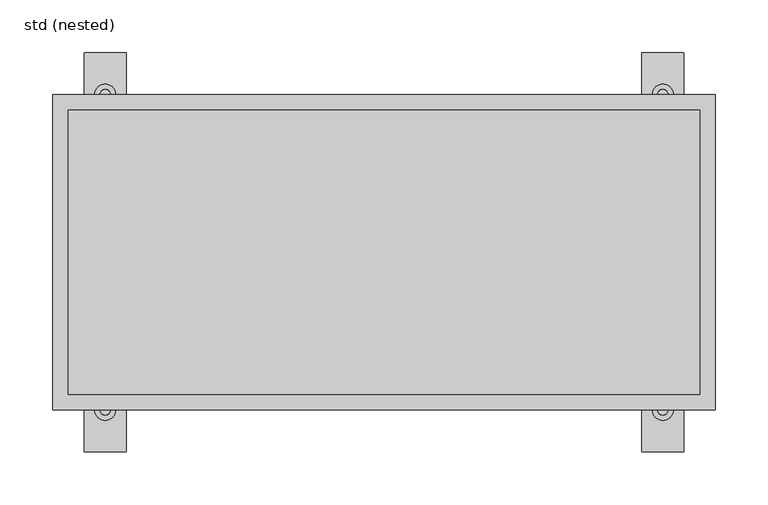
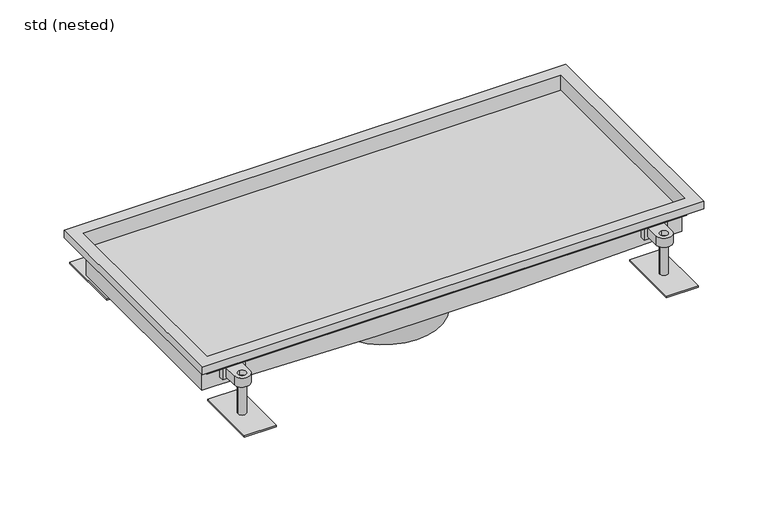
"""IFC4 building model written with IfcOpenShell, lengths in millimetres: sanitary terminal geometry, ZZZ_do not use_PF_ST_UN_hygienic box channel_ACO : std (nested)."""

import ifcopenshell
import ifcopenshell.guid

model = None  # the IFC model being written
_history = None  # IfcOwnerHistory: only IFC2X3 demands one
_inside = {}  # id of a spatial element -> (the spatial element, [elements in it])
_under = {}  # id of a project, library or spatial element -> (it, [spatial elements below it])
_declared = {}  # id of a project -> (the project, [libraries it declares])
_typed = {}  # id of a type object -> (the type object, [elements of that type])
_made_of = {}  # id of a material, layer set ... -> (it, [elements and type objects made of it])


def new_model(schema):
    """Start an empty IFC model of exactly this schema.

    Asked for "IFC4X3", IfcOpenShell would pick the latest addendum, in which some entities
    have other attributes; the version numbers below select the first issue.
    IFC2X3 requires an IfcOwnerHistory on every rooted entity: one is made here for all.
    """
    global model, _history
    if schema == "IFC4X3":
        model = ifcopenshell.file(schema_version=(4, 3, 0, 0))
    else:
        model = ifcopenshell.file(schema=schema)
    _inside.clear()
    _under.clear()
    _declared.clear()
    _typed.clear()
    _made_of.clear()
    _history = None
    if model.schema == "IFC2X3":
        org = make("IfcOrganization", Name="unknown")
        user = make(
            "IfcPersonAndOrganization",
            ThePerson=make("IfcPerson", FamilyName="unknown"),
            TheOrganization=org,
        )
        app = make(
            "IfcApplication",
            ApplicationDeveloper=org,
            Version="unknown",
            ApplicationFullName="unknown",
            ApplicationIdentifier="unknown",
        )
        _history = make(
            "IfcOwnerHistory",
            OwningUser=user,
            OwningApplication=app,
            ChangeAction="ADDED",
            CreationDate=0,
        )
    return model


def make(cls, **values):
    """One entity of the class cls with the attributes given. An attribute that is None is left unset."""
    return model.create_entity(
        cls, **{name: value for name, value in values.items() if value is not None}
    )


def rooted(cls, **values):
    """An entity with a GlobalId (a new one), such as an element, a storey or a relation."""
    return make(cls, GlobalId=ifcopenshell.guid.new(), OwnerHistory=_history, **values)


def si_unit(unit_type, name, prefix=None):
    """IfcSIUnit, for example si_unit("LENGTHUNIT", "METRE", prefix="MILLI")."""
    return make("IfcSIUnit", UnitType=unit_type, Prefix=prefix, Name=name)


def assignment(units):
    """IfcUnitAssignment: the units of a project."""
    return None if units is None else make("IfcUnitAssignment", Units=units)


def point(xyz):
    """IfcCartesianPoint."""
    return None if xyz is None else make("IfcCartesianPoint", Coordinates=xyz)


def direction(xyz):
    """IfcDirection."""
    return None if xyz is None else make("IfcDirection", DirectionRatios=xyz)


def frame(location, z_axis=None, x_axis=None):
    """IfcAxis2Placement3D, a coordinate frame: its origin and axes. An axis left out is left unset."""
    return make(
        "IfcAxis2Placement3D",
        Location=point(location),
        Axis=direction(z_axis),
        RefDirection=direction(x_axis),
    )


def frame_2d(location, x_axis=None):
    """IfcAxis2Placement2D, a coordinate frame in the plane: its origin and x axis."""
    return make(
        "IfcAxis2Placement2D", Location=point(location), RefDirection=direction(x_axis)
    )


def origin():
    """The frame at (0, 0, 0) with its axes left unset."""
    return frame((0.0, 0.0, 0.0))


def place(relative_to, where):
    """IfcLocalPlacement: puts the frame where relative to a parent placement (None: the world)."""
    return make(
        "IfcLocalPlacement", PlacementRelTo=relative_to, RelativePlacement=where
    )


def context(
    kind, dimensions, precision=None, world=None, true_north=None, identifier=None
):
    """IfcGeometricRepresentationContext, for example the 3D "Model" context."""
    return make(
        "IfcGeometricRepresentationContext",
        ContextIdentifier=identifier,
        ContextType=kind,
        CoordinateSpaceDimension=dimensions,
        Precision=precision,
        WorldCoordinateSystem=world,
        TrueNorth=true_north,
    )


def project(units=None, contexts=None):
    """IfcProject with its units and contexts."""
    return rooted(
        "IfcProject",
        Name="project",
        RepresentationContexts=contexts,
        UnitsInContext=assignment(units),
    )


def spatial(cls, under=None, at=None, **own):
    """A site, building, storey or space (cls), placed at a placement, below another one or the project."""
    s = rooted(cls, ObjectPlacement=at, **own)
    if under is not None:
        _under.setdefault(under.id(), (under, []))[1].append(s)
    return s


def polyline(points):
    """IfcPolyline through the points."""
    return make("IfcPolyline", Points=[point(p) for p in points])


def circle_curve(where, radius):
    """IfcCircle in the frame where."""
    return make("IfcCircle", Position=where, Radius=radius)


def trimmed(basis, trim1, trim2, sense, master):
    """IfcTrimmedCurve: the piece of a basis curve between two trims."""
    return make(
        "IfcTrimmedCurve",
        BasisCurve=basis,
        Trim1=trim1,
        Trim2=trim2,
        SenseAgreement=sense,
        MasterRepresentation=master,
    )


def segment(curve, same_sense, transition):
    """IfcCompositeCurveSegment."""
    return make(
        "IfcCompositeCurveSegment",
        Transition=transition,
        SameSense=same_sense,
        ParentCurve=curve,
    )


def composite_curve(segments, self_intersect=None):
    """IfcCompositeCurve: segments joined end to end."""
    return make("IfcCompositeCurve", Segments=segments, SelfIntersect=self_intersect)


def outline(outer, holes=None, kind="AREA"):
    """IfcArbitraryClosedProfileDef: a profile drawn as a closed curve; with holes, ...WithVoids."""
    if holes is None:
        return make("IfcArbitraryClosedProfileDef", ProfileType=kind, OuterCurve=outer)
    return make(
        "IfcArbitraryProfileDefWithVoids",
        ProfileType=kind,
        OuterCurve=outer,
        InnerCurves=holes,
    )


def extrude(swept, where, along, depth):
    """IfcExtrudedAreaSolid: the profile swept, set in the frame where, extruded along a direction by depth."""
    return make(
        "IfcExtrudedAreaSolid",
        SweptArea=swept,
        Position=where,
        ExtrudedDirection=direction(along),
        Depth=depth,
    )


def faces_of(points, faces, orient=None, outer=None):
    """IfcFace entities. A face is a list of loops; a loop is a list of indices into points, from 0.

    orient and outer hold one flag for each loop. By default every Orientation is true, the
    first loop of a face is its IfcFaceOuterBound and the others are IfcFaceBound.
    """
    made = []
    for i, loops in enumerate(faces):
        bounds = []
        for j, loop in enumerate(loops):
            is_outer = j == 0 if outer is None else outer[i][j]
            bounds.append(
                make(
                    "IfcFaceOuterBound" if is_outer else "IfcFaceBound",
                    Bound=make("IfcPolyLoop", Polygon=[points[k] for k in loop]),
                    Orientation=True if orient is None else orient[i][j],
                )
            )
        made.append(make("IfcFace", Bounds=bounds))
    return made


def faceted_brep(points, faces, orient=None, outer=None, voids=None):
    """IfcFacetedBrep: a solid bounded by flat faces; with voids (closed shells), ...WithVoids."""
    shared = [point(p) for p in points]
    hull = make("IfcClosedShell", CfsFaces=faces_of(shared, faces, orient, outer))
    if voids is None:
        return make("IfcFacetedBrep", Outer=hull)
    return make(
        "IfcFacetedBrepWithVoids",
        Outer=hull,
        Voids=[
            make(cls, CfsFaces=faces_of(shared, fs, o, b)) for cls, fs, o, b in voids
        ],
    )


def shape(context_of_items, identifier, shape_type, items):
    """IfcShapeRepresentation: the items that make up one representation, for example the "Body"."""
    return make(
        "IfcShapeRepresentation",
        ContextOfItems=context_of_items,
        RepresentationIdentifier=identifier,
        RepresentationType=shape_type,
        Items=items,
    )


def source(mapping_origin, context_of_items, identifier, shape_type, items):
    """IfcRepresentationMap: a shape defined once, which mapped items show again and again."""
    return make(
        "IfcRepresentationMap",
        MappingOrigin=mapping_origin,
        MappedRepresentation=shape(context_of_items, identifier, shape_type, items),
    )


def transform(
    local_origin,
    x_axis=None,
    y_axis=None,
    z_axis=None,
    scale=None,
    scale2=None,
    scale3=None,
    uniform=True,
):
    """IfcCartesianTransformationOperator3D, or its non-uniform kind. x_axis, y_axis, z_axis: its Axis1, 2, 3."""
    if uniform:
        return make(
            "IfcCartesianTransformationOperator3D",
            Axis1=direction(x_axis),
            Axis2=direction(y_axis),
            LocalOrigin=point(local_origin),
            Scale=scale,
            Axis3=direction(z_axis),
        )
    return make(
        "IfcCartesianTransformationOperator3DnonUniform",
        Axis1=direction(x_axis),
        Axis2=direction(y_axis),
        LocalOrigin=point(local_origin),
        Scale=scale,
        Axis3=direction(z_axis),
        Scale2=scale2,
        Scale3=scale3,
    )


def mapped(mapping_source, mapping_target):
    """IfcMappedItem: shows the shape of a source again, moved by a transform."""
    return make(
        "IfcMappedItem", MappingSource=mapping_source, MappingTarget=mapping_target
    )


def made_of(thing, what):
    """Note that an element or type object is made of a material, layer set ...; save() writes the relation."""
    if what is not None:
        _made_of.setdefault(what.id(), (what, []))[1].append(thing)
    return thing


def element(
    cls,
    number,
    at=None,
    inside=None,
    cuts=None,
    type_object=None,
    material=None,
    context=None,
    identifier="Body",
    shape_type=None,
    held_by="IfcProductDefinitionShape",
    body=None,
    shapes=None,
    **own,
):
    """One element of the class cls, such as IfcWall. Its Tag is "e" and its number.

    at: its placement. inside: the storey or other place that contains it. cuts: it is an
    opening in that element (IfcRelVoidsElement). A single representation is given by context,
    identifier, shape_type and body (its items); several are given by shapes. held_by: the class
    of the entity that holds the representations. save() writes the other relations.
    """
    e = rooted(cls, Tag="e%d" % number, ObjectPlacement=at, **own)
    if body is not None:
        shapes = [shape(context, identifier, shape_type, body)]
    if shapes is not None:
        e.Representation = make(held_by, Representations=shapes)
    if inside is not None:
        _inside.setdefault(inside.id(), (inside, []))[1].append(e)
    if cuts is not None:
        rooted(
            "IfcRelVoidsElement", RelatingBuildingElement=cuts, RelatedOpeningElement=e
        )
    if type_object is not None:
        _typed.setdefault(type_object.id(), (type_object, []))[1].append(e)
    return made_of(e, material)


def aggregate(whole, parts):
    """IfcRelAggregates: a whole, such as a stair, and the parts it consists of."""
    return rooted("IfcRelAggregates", RelatingObject=whole, RelatedObjects=parts)


def save(model, path):
    """Write the relations noted so far, then the file.

    IfcRelAggregates (storeys below a building ...), IfcRelContainedInSpatialStructure (elements
    in a storey), IfcRelDefinesByType, IfcRelAssociatesMaterial and IfcRelDeclares: one each for
    every whole, place, type object, material and project.
    """
    for whole, parts in _under.values():
        aggregate(whole, parts)
    for where, things in _inside.values():
        rooted(
            "IfcRelContainedInSpatialStructure",
            RelatedElements=things,
            RelatingStructure=where,
        )
    for kind, things in _typed.values():
        rooted("IfcRelDefinesByType", RelatedObjects=things, RelatingType=kind)
    for what, things in _made_of.values():
        rooted("IfcRelAssociatesMaterial", RelatedObjects=things, RelatingMaterial=what)
    for by, libraries in _declared.values():
        rooted("IfcRelDeclares", RelatingContext=by, RelatedDefinitions=libraries)
    model.write(path)


def plane_surface(at):
    """IfcPlane: the flat surface through the origin of the frame at, square to its z axis."""
    return make("IfcPlane", Position=at)


def cylinder_surface(at, radius):
    """IfcCylindricalSurface: all points at the distance radius from the z axis of the frame at."""
    return make("IfcCylindricalSurface", Position=at, Radius=radius)


def advanced_brep(points, edges, surfaces, faces):
    """IfcAdvancedBrep: a solid bounded by faces that lie on surfaces and meet in shared edges.

    An edge is (start, end): straight between two places in points (the first is 0);
    or (start, end, curve); or (start, end, curve, False) where it runs against its curve.
    A face is (place in surfaces, loops), or (place, loops, False) where it looks against
    its surface's normal. A loop lists edges by number (the first is 1), with a minus sign
    where the edge is run from its end to its start. The first loop is the outer one.
    """
    corners = [point(p) for p in points]
    vertices = [make("IfcVertexPoint", VertexGeometry=c) for c in corners]
    made = []
    for start, end, *more in edges:
        made.append(
            make(
                "IfcEdgeCurve",
                EdgeStart=vertices[start],
                EdgeEnd=vertices[end],
                EdgeGeometry=more[0] if more else make("IfcPolyline", Points=[corners[start], corners[end]]),
                SameSense=more[1] if len(more) > 1 else True,
            )
        )
    hull = []
    for where, loops, *sense in faces:
        bounds = []
        for j, loop in enumerate(loops):
            ring = [make("IfcOrientedEdge", EdgeElement=made[abs(k) - 1], Orientation=k > 0) for k in loop]
            bounds.append(
                make(
                    "IfcFaceOuterBound" if j == 0 else "IfcFaceBound",
                    Bound=make("IfcEdgeLoop", EdgeList=ring),
                    Orientation=True,
                )
            )
        hull.append(make("IfcAdvancedFace", Bounds=bounds, FaceSurface=surfaces[where], SameSense=sense[0] if sense else True))
    return make("IfcAdvancedBrep", Outer=make("IfcClosedShell", CfsFaces=hull))


def std_nested_1bb88c5a(model_context):
    return source(origin(), model_context, "Body", "SolidModel", [
        extrude(outline(composite_curve([segment(polyline([(275.0, 132.5), (255.0, 132.5), (255.0, 150.0)]), True, "CONTINUOUS"), segment(trimmed(circle_curve(frame_2d((265.0, 150.0)), 10.0), [point((255.0, 150.0))], [point((275.0, 150.0))], False, "CARTESIAN"), True, "CONTINUOUS"), segment(polyline([(275.0, 150.0), (275.0, 132.5)]), True, "CONTINUOUS")], self_intersect=False), holes=[composite_curve([segment(trimmed(circle_curve(frame_2d((265.0, 150.0)), 5.0), [point((265.0, 145.0))], [point((265.0, 155.0))], True, "CARTESIAN"), True, "CONTINUOUS"), segment(trimmed(circle_curve(frame_2d((265.0, 150.0)), 5.0), [point((265.0, 155.0))], [point((265.0, 145.0))], True, "CARTESIAN"), True, "CONTINUOUS")], self_intersect=False)]), frame((0.0, 0.0, -37.0), z_axis=(0.0, 0.0, 1.0), x_axis=(1.0, 0.0, 0.0)), (0.0, 0.0, 1.0), 12.0),
        advanced_brep(
        [(260.0, 150.0, -31.0), (270.0, 150.0, -31.0), (285.0, 110.0, -79.5), (245.0, 110.0, -79.5), (245.0, 190.0, -79.5), (285.0, 190.0, -79.5), (270.0, 150.0, -77.5), (260.0, 150.0, -77.5), (285.0, 110.0, -77.5), (285.0, 190.0, -77.5), (245.0, 190.0, -77.5), (245.0, 110.0, -77.5)],
        [
            (0, 1, circle_curve(frame((265.0, 150.0, -31.0), z_axis=(0.0, 0.0, 1.0), x_axis=(1.0, 0.0, 0.0)), 5.0)),
            (1, 0, circle_curve(frame((265.0, 150.0, -31.0), z_axis=(0.0, 0.0, 1.0), x_axis=(1.0, 0.0, 0.0)), 5.0)),
            (2, 3),
            (3, 4),
            (4, 5),
            (5, 2),
            (1, 6),
            (6, 7, circle_curve(frame((265.0, 150.0, -77.5), z_axis=(0.0, 0.0, 1.0), x_axis=(1.0, 0.0, 0.0)), 5.0)),
            (7, 0),
            (7, 6, circle_curve(frame((265.0, 150.0, -77.5), z_axis=(0.0, 0.0, 1.0), x_axis=(1.0, 0.0, 0.0)), 5.0)),
            (8, 9),
            (9, 10),
            (10, 11),
            (11, 8),
            (11, 3),
            (2, 8),
            (10, 4),
            (9, 5),
        ],
        [
            plane_surface(frame((270.0, 150.0, -31.0), z_axis=(0.0, 0.0, 1.0), x_axis=(0.0, -1.0, 0.0))),
            plane_surface(frame((270.0, 150.0, -79.5), z_axis=(0.0, 0.0, -1.0), x_axis=(0.0, 1.0, 0.0))),
            cylinder_surface(frame((265.0, 150.0, -79.5), z_axis=(0.0, 0.0, 1.0), x_axis=(1.0, 0.0, 0.0)), 5.0),
            plane_surface(frame((245.0, 110.0, -77.5), z_axis=(0.0, 0.0, 1.0), x_axis=(-1.0, 0.0, 0.0))),
            plane_surface(frame((285.0, 110.0, -77.5), z_axis=(0.0, -1.0, 0.0), x_axis=(0.0, 0.0, -1.0))),
            plane_surface(frame((245.0, 110.0, -77.5), z_axis=(-1.0, 0.0, 0.0), x_axis=(0.0, 0.0, -1.0))),
            plane_surface(frame((245.0, 190.0, -77.5), z_axis=(0.0, 1.0, 0.0), x_axis=(0.0, 0.0, -1.0))),
            plane_surface(frame((285.0, 190.0, -77.5), z_axis=(1.0, 0.0, 0.0), x_axis=(0.0, 0.0, -1.0))),
        ],
        [
            (0, [[1, 2]]),
            (1, [[3, 4, 5, 6]]),
            (2, [[7, 8, 9, -2]]),
            (2, [[-9, 10, -7, -1]]),
            (3, [[11, 12, 13, 14], [-10, -8]]),
            (4, [[15, -3, 16, -14]]),
            (5, [[17, -4, -15, -13]]),
            (6, [[18, -5, -17, -12]]),
            (7, [[-16, -6, -18, -11]]),
        ],
    ),
        extrude(outline(polyline([(279.35, 124.5), (250.65, 124.5), (250.65, 132.5), (279.35, 132.5), (279.35, 124.5)])), frame((0.0, 0.0, -40.0), z_axis=(0.0, 0.0, 1.0), x_axis=(1.0, 0.0, 0.0)), (0.0, 0.0, 1.0), 18.0),
        extrude(outline(composite_curve([segment(polyline([(275.0, -132.5), (275.0, -150.0)]), True, "CONTINUOUS"), segment(trimmed(circle_curve(frame_2d((265.0, -150.0)), 10.0), [point((275.0, -150.0))], [point((255.0, -150.0))], False, "CARTESIAN"), True, "CONTINUOUS"), segment(polyline([(255.0, -150.0), (255.0, -132.5), (275.0, -132.5)]), True, "CONTINUOUS")], self_intersect=False), holes=[composite_curve([segment(trimmed(circle_curve(frame_2d((265.0, -150.0)), 5.0), [point((265.0, -145.0))], [point((265.0, -155.0))], True, "CARTESIAN"), True, "CONTINUOUS"), segment(trimmed(circle_curve(frame_2d((265.0, -150.0)), 5.0), [point((265.0, -155.0))], [point((265.0, -145.0))], True, "CARTESIAN"), True, "CONTINUOUS")], self_intersect=False)]), frame((0.0, 0.0, -37.0), z_axis=(0.0, 0.0, 1.0), x_axis=(1.0, 0.0, 0.0)), (0.0, 0.0, 1.0), 12.0),
        advanced_brep(
        [(260.0, -150.0, -31.0), (270.0, -150.0, -31.0), (285.0, -110.0, -79.5), (285.0, -190.0, -79.5), (245.0, -190.0, -79.5), (245.0, -110.0, -79.5), (260.0, -150.0, -77.5), (270.0, -150.0, -77.5), (285.0, -110.0, -77.5), (245.0, -110.0, -77.5), (245.0, -190.0, -77.5), (285.0, -190.0, -77.5)],
        [
            (0, 1, circle_curve(frame((265.0, -150.0, -31.0), z_axis=(0.0, 0.0, 1.0), x_axis=(1.0, 0.0, 0.0)), 5.0)),
            (1, 0, circle_curve(frame((265.0, -150.0, -31.0), z_axis=(0.0, 0.0, 1.0), x_axis=(1.0, 0.0, 0.0)), 5.0)),
            (2, 3),
            (3, 4),
            (4, 5),
            (5, 2),
            (0, 6),
            (6, 7, circle_curve(frame((265.0, -150.0, -77.5), z_axis=(0.0, 0.0, 1.0), x_axis=(1.0, 0.0, 0.0)), 5.0)),
            (7, 1),
            (7, 6, circle_curve(frame((265.0, -150.0, -77.5), z_axis=(0.0, 0.0, 1.0), x_axis=(1.0, 0.0, 0.0)), 5.0)),
            (8, 9),
            (9, 10),
            (10, 11),
            (11, 8),
            (8, 2),
            (5, 9),
            (4, 10),
            (3, 11),
        ],
        [
            plane_surface(frame((270.0, -150.0, -31.0), z_axis=(0.0, 0.0, 1.0), x_axis=(0.0, 1.0, 0.0))),
            plane_surface(frame((270.0, -150.0, -79.5), z_axis=(0.0, 0.0, -1.0), x_axis=(0.0, -1.0, 0.0))),
            cylinder_surface(frame((265.0, -150.0, -79.5), z_axis=(0.0, 0.0, 1.0), x_axis=(1.0, 0.0, 0.0)), 5.0),
            plane_surface(frame((245.0, -110.0, -77.5), z_axis=(0.0, 0.0, 1.0), x_axis=(-1.0, 0.0, 0.0))),
            plane_surface(frame((285.0, -110.0, -77.5), z_axis=(0.0, 1.0, 0.0), x_axis=(0.0, 0.0, -1.0))),
            plane_surface(frame((245.0, -110.0, -77.5), z_axis=(-1.0, 0.0, 0.0), x_axis=(0.0, 0.0, -1.0))),
            plane_surface(frame((245.0, -190.0, -77.5), z_axis=(0.0, -1.0, 0.0), x_axis=(0.0, 0.0, -1.0))),
            plane_surface(frame((285.0, -190.0, -77.5), z_axis=(1.0, 0.0, 0.0), x_axis=(0.0, 0.0, -1.0))),
        ],
        [
            (0, [[1, 2]]),
            (1, [[3, 4, 5, 6]]),
            (2, [[-1, 7, 8, 9]]),
            (2, [[-2, -9, 10, -7]]),
            (3, [[11, 12, 13, 14], [-8, -10]]),
            (4, [[-11, 15, -6, 16]]),
            (5, [[-12, -16, -5, 17]]),
            (6, [[-13, -17, -4, 18]]),
            (7, [[-14, -18, -3, -15]]),
        ],
    ),
        extrude(outline(polyline([(279.35, -124.5), (279.35, -132.5), (250.65, -132.5), (250.65, -124.5), (279.35, -124.5)])), frame((0.0, 0.0, -40.0), z_axis=(0.0, 0.0, 1.0), x_axis=(1.0, 0.0, 0.0)), (0.0, 0.0, 1.0), 18.0),
        extrude(outline(composite_curve([segment(polyline([(-255.0, 132.5), (-275.0, 132.5), (-275.0, 150.0)]), True, "CONTINUOUS"), segment(trimmed(circle_curve(frame_2d((-265.0, 150.0)), 10.0), [point((-275.0, 150.0))], [point((-255.0, 150.0))], False, "CARTESIAN"), True, "CONTINUOUS"), segment(polyline([(-255.0, 150.0), (-255.0, 132.5)]), True, "CONTINUOUS")], self_intersect=False), holes=[composite_curve([segment(trimmed(circle_curve(frame_2d((-265.0, 150.0)), 5.0), [point((-265.0, 145.0))], [point((-265.0, 155.0))], True, "CARTESIAN"), True, "CONTINUOUS"), segment(trimmed(circle_curve(frame_2d((-265.0, 150.0)), 5.0), [point((-265.0, 155.0))], [point((-265.0, 145.0))], True, "CARTESIAN"), True, "CONTINUOUS")], self_intersect=False)]), frame((0.0, 0.0, -37.0), z_axis=(0.0, 0.0, 1.0), x_axis=(1.0, 0.0, 0.0)), (0.0, 0.0, 1.0), 12.0),
        advanced_brep(
        [(-270.0, 150.0, -31.0), (-260.0, 150.0, -31.0), (-245.0, 110.0, -79.5), (-285.0, 110.0, -79.5), (-285.0, 190.0, -79.5), (-245.0, 190.0, -79.5), (-260.0, 150.0, -77.5), (-270.0, 150.0, -77.5), (-245.0, 110.0, -77.5), (-245.0, 190.0, -77.5), (-285.0, 190.0, -77.5), (-285.0, 110.0, -77.5)],
        [
            (0, 1, circle_curve(frame((-265.0, 150.0, -31.0), z_axis=(0.0, 0.0, 1.0), x_axis=(1.0, 0.0, 0.0)), 5.0)),
            (1, 0, circle_curve(frame((-265.0, 150.0, -31.0), z_axis=(0.0, 0.0, 1.0), x_axis=(1.0, 0.0, 0.0)), 5.0)),
            (2, 3),
            (3, 4),
            (4, 5),
            (5, 2),
            (1, 6),
            (6, 7, circle_curve(frame((-265.0, 150.0, -77.5), z_axis=(0.0, 0.0, 1.0), x_axis=(1.0, 0.0, 0.0)), 5.0)),
            (7, 0),
            (7, 6, circle_curve(frame((-265.0, 150.0, -77.5), z_axis=(0.0, 0.0, 1.0), x_axis=(1.0, 0.0, 0.0)), 5.0)),
            (8, 9),
            (9, 10),
            (10, 11),
            (11, 8),
            (11, 3),
            (2, 8),
            (10, 4),
            (9, 5),
        ],
        [
            plane_surface(frame((-260.0, 150.0, -31.0), z_axis=(0.0, 0.0, 1.0), x_axis=(0.0, -1.0, 0.0))),
            plane_surface(frame((-260.0, 150.0, -79.5), z_axis=(0.0, 0.0, -1.0), x_axis=(0.0, 1.0, 0.0))),
            cylinder_surface(frame((-265.0, 150.0, -79.5), z_axis=(0.0, 0.0, 1.0), x_axis=(1.0, 0.0, 0.0)), 5.0),
            plane_surface(frame((-285.0, 110.0, -77.5), z_axis=(0.0, 0.0, 1.0), x_axis=(-1.0, 0.0, 0.0))),
            plane_surface(frame((-245.0, 110.0, -77.5), z_axis=(0.0, -1.0, 0.0), x_axis=(0.0, 0.0, -1.0))),
            plane_surface(frame((-285.0, 110.0, -77.5), z_axis=(-1.0, 0.0, 0.0), x_axis=(0.0, 0.0, -1.0))),
            plane_surface(frame((-285.0, 190.0, -77.5), z_axis=(0.0, 1.0, 0.0), x_axis=(0.0, 0.0, -1.0))),
            plane_surface(frame((-245.0, 190.0, -77.5), z_axis=(1.0, 0.0, 0.0), x_axis=(0.0, 0.0, -1.0))),
        ],
        [
            (0, [[1, 2]]),
            (1, [[3, 4, 5, 6]]),
            (2, [[7, 8, 9, -2]]),
            (2, [[-9, 10, -7, -1]]),
            (3, [[11, 12, 13, 14], [-10, -8]]),
            (4, [[15, -3, 16, -14]]),
            (5, [[17, -4, -15, -13]]),
            (6, [[18, -5, -17, -12]]),
            (7, [[-16, -6, -18, -11]]),
        ],
    ),
        extrude(outline(polyline([(-250.65, 124.5), (-279.35, 124.5), (-279.35, 132.5), (-250.65, 132.5), (-250.65, 124.5)])), frame((0.0, 0.0, -40.0), z_axis=(0.0, 0.0, 1.0), x_axis=(1.0, 0.0, 0.0)), (0.0, 0.0, 1.0), 18.0),
        extrude(outline(composite_curve([segment(polyline([(-255.0, -132.5), (-255.0, -150.0)]), True, "CONTINUOUS"), segment(trimmed(circle_curve(frame_2d((-265.0, -150.0)), 10.0), [point((-255.0, -150.0))], [point((-275.0, -150.0))], False, "CARTESIAN"), True, "CONTINUOUS"), segment(polyline([(-275.0, -150.0), (-275.0, -132.5), (-255.0, -132.5)]), True, "CONTINUOUS")], self_intersect=False), holes=[composite_curve([segment(trimmed(circle_curve(frame_2d((-265.0, -150.0)), 5.0), [point((-265.0, -145.0))], [point((-265.0, -155.0))], True, "CARTESIAN"), True, "CONTINUOUS"), segment(trimmed(circle_curve(frame_2d((-265.0, -150.0)), 5.0), [point((-265.0, -155.0))], [point((-265.0, -145.0))], True, "CARTESIAN"), True, "CONTINUOUS")], self_intersect=False)]), frame((0.0, 0.0, -37.0), z_axis=(0.0, 0.0, 1.0), x_axis=(1.0, 0.0, 0.0)), (0.0, 0.0, 1.0), 12.0),
        advanced_brep(
        [(-270.0, -150.0, -31.0), (-260.0, -150.0, -31.0), (-245.0, -110.0, -79.5), (-245.0, -190.0, -79.5), (-285.0, -190.0, -79.5), (-285.0, -110.0, -79.5), (-270.0, -150.0, -77.5), (-260.0, -150.0, -77.5), (-245.0, -110.0, -77.5), (-285.0, -110.0, -77.5), (-285.0, -190.0, -77.5), (-245.0, -190.0, -77.5)],
        [
            (0, 1, circle_curve(frame((-265.0, -150.0, -31.0), z_axis=(0.0, 0.0, 1.0), x_axis=(1.0, 0.0, 0.0)), 5.0)),
            (1, 0, circle_curve(frame((-265.0, -150.0, -31.0), z_axis=(0.0, 0.0, 1.0), x_axis=(1.0, 0.0, 0.0)), 5.0)),
            (2, 3),
            (3, 4),
            (4, 5),
            (5, 2),
            (0, 6),
            (6, 7, circle_curve(frame((-265.0, -150.0, -77.5), z_axis=(0.0, 0.0, 1.0), x_axis=(1.0, 0.0, 0.0)), 5.0)),
            (7, 1),
            (7, 6, circle_curve(frame((-265.0, -150.0, -77.5), z_axis=(0.0, 0.0, 1.0), x_axis=(1.0, 0.0, 0.0)), 5.0)),
            (8, 9),
            (9, 10),
            (10, 11),
            (11, 8),
            (8, 2),
            (5, 9),
            (4, 10),
            (3, 11),
        ],
        [
            plane_surface(frame((-260.0, -150.0, -31.0), z_axis=(0.0, 0.0, 1.0), x_axis=(0.0, 1.0, 0.0))),
            plane_surface(frame((-260.0, -150.0, -79.5), z_axis=(0.0, 0.0, -1.0), x_axis=(0.0, -1.0, 0.0))),
            cylinder_surface(frame((-265.0, -150.0, -79.5), z_axis=(0.0, 0.0, 1.0), x_axis=(1.0, 0.0, 0.0)), 5.0),
            plane_surface(frame((-285.0, -110.0, -77.5), z_axis=(0.0, 0.0, 1.0), x_axis=(-1.0, 0.0, 0.0))),
            plane_surface(frame((-245.0, -110.0, -77.5), z_axis=(0.0, 1.0, 0.0), x_axis=(0.0, 0.0, -1.0))),
            plane_surface(frame((-285.0, -110.0, -77.5), z_axis=(-1.0, 0.0, 0.0), x_axis=(0.0, 0.0, -1.0))),
            plane_surface(frame((-285.0, -190.0, -77.5), z_axis=(0.0, -1.0, 0.0), x_axis=(0.0, 0.0, -1.0))),
            plane_surface(frame((-245.0, -190.0, -77.5), z_axis=(1.0, 0.0, 0.0), x_axis=(0.0, 0.0, -1.0))),
        ],
        [
            (0, [[1, 2]]),
            (1, [[3, 4, 5, 6]]),
            (2, [[-1, 7, 8, 9]]),
            (2, [[-2, -9, 10, -7]]),
            (3, [[11, 12, 13, 14], [-8, -10]]),
            (4, [[-11, 15, -6, 16]]),
            (5, [[-12, -16, -5, 17]]),
            (6, [[-13, -17, -4, 18]]),
            (7, [[-14, -18, -3, -15]]),
        ],
    ),
        extrude(outline(polyline([(-250.65, -124.5), (-250.65, -132.5), (-279.35, -132.5), (-279.35, -124.5), (-250.65, -124.5)])), frame((0.0, 0.0, -40.0), z_axis=(0.0, 0.0, 1.0), x_axis=(1.0, 0.0, 0.0)), (0.0, 0.0, 1.0), 18.0),
        faceted_brep([(-300.0, 135.0, -22.0), (-300.0, 135.0, -20.5), (300.0, 135.0, -20.5), (300.0, 135.0, -22.0), (-300.0, -135.0, -20.5), (300.0, -135.0, -20.5), (-300.0, -135.0, -22.0), (300.0, -135.0, -22.0), (-300.0, -126.0, -22.0), (300.0, -126.0, -22.0), (300.0, 126.0, -22.0), (-300.0, 126.0, -22.0), (82.5, -126.0, -55.0), (286.5, -126.0, -50.0), (301.5, -126.0, -50.0), (301.5, -126.0, -22.0), (-301.5, -126.0, -22.0), (-301.5, -126.0, -50.0), (-286.5, -126.0, -50.0), (-82.5, -126.0, -55.0), (82.5, 126.0, -55.0), (286.5, 126.0, -50.0), (-82.5, 126.0, -55.0), (-286.5, 126.0, -50.0), (-301.5, 126.0, -50.0), (-301.5, 126.0, -22.0), (301.5, 126.0, -22.0), (301.5, 126.0, -50.0)], [[[0, 1, 2, 3]], [[1, 4, 5, 2]], [[4, 6, 7, 5]], [[6, 8, 9, 7]], [[10, 11, 0, 3]], [[12, 13, 14, 15, 9, 8, 16, 17, 18, 19]], [[13, 12, 20, 21]], [[21, 20, 22, 23, 24, 25, 11, 10, 26, 27]], [[22, 20, 12, 19]], [[19, 18, 23, 22]], [[24, 17, 16, 25]], [[25, 16, 8, 11]], [[17, 24, 23, 18]], [[4, 1, 0, 11, 8, 6]], [[5, 7, 9, 10, 3, 2]], [[26, 15, 14, 27]], [[15, 26, 10, 9]], [[27, 14, 13, 21]]]),
        advanced_brep(
        [(-71.3, 0.0, -121.5), (71.3, 0.0, -121.5), (0.0, 0.0, -121.5), (-71.3, 0.0, -60.0), (71.3, 0.0, -60.0), (-82.5, 0.0, -60.0), (82.5, 0.0, -60.0), (-82.5, 0.0, -55.0), (82.5, 0.0, -55.0), (0.0, 0.0, -55.0)],
        [
            (0, 1, circle_curve(frame((0.0, 0.0, -121.5), z_axis=(0.0, 0.0, -1.0), x_axis=(1.0, 0.0, 0.0)), 71.3)),
            (1, 2),
            (2, 0),
            (1, 0, circle_curve(frame((0.0, 0.0, -121.5), z_axis=(0.0, 0.0, -1.0), x_axis=(1.0, 0.0, 0.0)), 71.3)),
            (3, 4, circle_curve(frame((0.0, 0.0, -60.0), z_axis=(0.0, 0.0, -1.0), x_axis=(1.0, 0.0, 0.0)), 71.3)),
            (4, 1),
            (0, 3),
            (4, 3, circle_curve(frame((0.0, 0.0, -60.0), z_axis=(0.0, 0.0, -1.0), x_axis=(1.0, 0.0, 0.0)), 71.3)),
            (5, 6, circle_curve(frame((0.0, 0.0, -60.0), z_axis=(0.0, 0.0, -1.0), x_axis=(1.0, 0.0, 0.0)), 82.5)),
            (6, 4),
            (3, 5),
            (6, 5, circle_curve(frame((0.0, 0.0, -60.0), z_axis=(0.0, 0.0, -1.0), x_axis=(1.0, 0.0, 0.0)), 82.5)),
            (7, 8, circle_curve(frame((0.0, 0.0, -55.0), z_axis=(0.0, 0.0, -1.0), x_axis=(1.0, 0.0, 0.0)), 82.5)),
            (8, 6),
            (5, 7),
            (8, 7, circle_curve(frame((0.0, 0.0, -55.0), z_axis=(0.0, 0.0, -1.0), x_axis=(1.0, 0.0, 0.0)), 82.5)),
            (9, 8),
            (7, 9),
        ],
        [
            plane_surface(frame((0.0, 0.0, -121.5), z_axis=(0.0, 0.0, -1.0), x_axis=(1.0, 0.0, 0.0))),
            cylinder_surface(frame((0.0, 0.0, -130.0), z_axis=(0.0, 0.0, 1.0), x_axis=(1.0, 0.0, 0.0)), 71.3),
            plane_surface(frame((0.0, 0.0, -60.0), z_axis=(0.0, 0.0, -1.0), x_axis=(1.0, 0.0, 0.0))),
            cylinder_surface(frame((0.0, 0.0, -130.0), z_axis=(0.0, 0.0, 1.0), x_axis=(1.0, 0.0, 0.0)), 82.5),
            plane_surface(frame((0.0, 0.0, -55.0), z_axis=(0.0, 0.0, 1.0), x_axis=(1.0, 0.0, 0.0))),
        ],
        [
            (0, [[1, 2, 3]]),
            (0, [[4, -3, -2]]),
            (1, [[5, 6, -1, 7]]),
            (1, [[8, -7, -4, -6]]),
            (2, [[9, 10, -5, 11]]),
            (2, [[12, -11, -8, -10]]),
            (3, [[13, 14, -9, 15]]),
            (3, [[16, -15, -12, -14]]),
            (4, [[17, -13, 18]]),
            (4, [[-18, -16, -17]]),
        ],
    ),
        faceted_brep([(315.0, 150.0, -10.0), (315.0, 150.0, 0.0), (315.0, -150.0, 0.0), (315.0, -150.0, -10.0), (301.5, 136.5, -22.0), (301.5, 136.5, -1.5), (301.5, -136.5, -1.5), (301.5, -136.5, -22.0), (300.0, 135.0, 0.0), (300.0, 135.0, -22.0), (300.0, -135.0, -22.0), (300.0, -135.0, 0.0), (-315.0, -150.0, 0.0), (-315.0, -150.0, -10.0), (-301.5, -136.5, -1.5), (-301.5, -136.5, -22.0), (-300.0, -135.0, -22.0), (-300.0, -135.0, 0.0), (-315.0, 150.0, 0.0), (-315.0, 150.0, -10.0), (-301.5, 136.5, -1.5), (-301.5, 136.5, -22.0), (-300.0, 135.0, -22.0), (-300.0, 135.0, 0.0), (313.5, 148.5, -10.0), (-313.5, 148.5, -10.0), (-313.5, -148.5, -10.0), (313.5, -148.5, -10.0), (313.5, 148.5, -1.5), (313.5, -148.5, -1.5), (-313.5, -148.5, -1.5), (-313.5, 148.5, -1.5)], [[[0, 1, 2, 3]], [[4, 5, 6, 7]], [[8, 9, 10, 11]], [[3, 2, 12, 13]], [[7, 6, 14, 15]], [[11, 10, 16, 17]], [[13, 12, 18, 19]], [[15, 14, 20, 21]], [[17, 16, 22, 23]], [[19, 18, 1, 0]], [[3, 13, 19, 0], [24, 25, 26, 27]], [[21, 20, 5, 4]], [[7, 15, 21, 4], [9, 22, 16, 10]], [[23, 22, 9, 8]], [[1, 18, 12, 2], [11, 17, 23, 8]], [[28, 24, 27, 29]], [[29, 27, 26, 30]], [[30, 26, 25, 31]], [[31, 25, 24, 28]], [[29, 30, 31, 28], [5, 20, 14, 6]]]),
    ])


if __name__ == "__main__":
    model = new_model("IFC4")
    model_context = context("Model", 3, world=origin())
    ifc_project = project(units=[si_unit("LENGTHUNIT", "METRE", prefix="MILLI")], contexts=[model_context])
    site = spatial("IfcSite", under=ifc_project)
    building = spatial("IfcBuilding", under=site)
    placement = place(None, origin())
    std_nested_shape = std_nested_1bb88c5a(model_context)
    element("IfcSanitaryTerminal", 1, ObjectType="ZZZ_do not use_PF_ST_UN_hygienic box channel_ACO : std (nested)", at=placement, inside=building, context=model_context, shape_type="MappedRepresentation", body=[
        mapped(std_nested_shape, transform((0.0, 0.0, 0.0), x_axis=(1.0, 0.0, 0.0), y_axis=(0.0, 1.0, 0.0), z_axis=(0.0, 0.0, 1.0))),
    ])
    save(model, "model.ifc")
